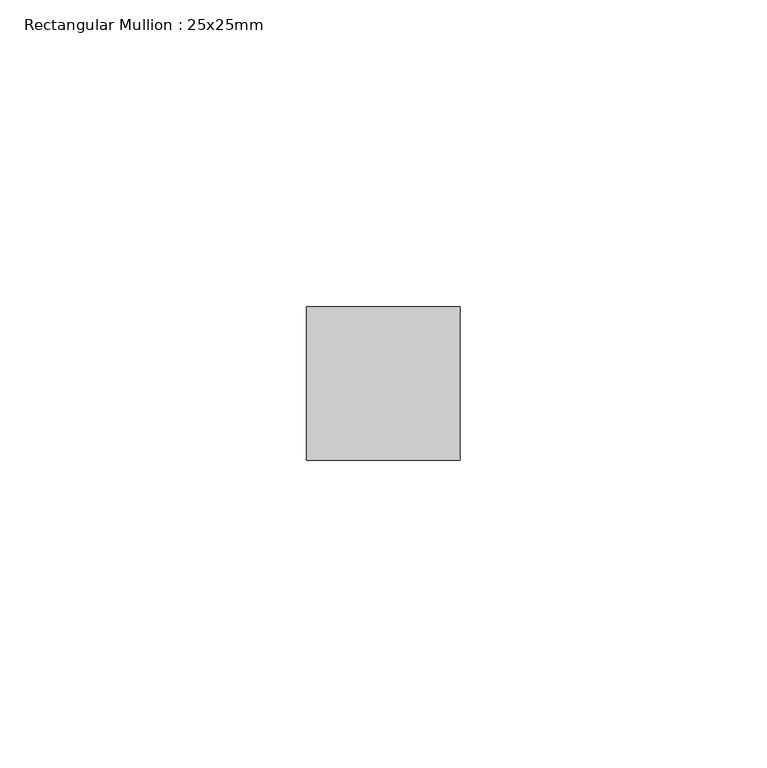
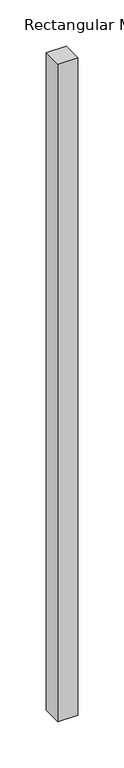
"""IFC4 building model written with IfcOpenShell, lengths in millimetres: member geometry, Rectangular Mullion : 25x25mm."""

import ifcopenshell
import ifcopenshell.guid

model = None  # the IFC model being written
_history = None  # IfcOwnerHistory: only IFC2X3 demands one
_inside = {}  # id of a spatial element -> (the spatial element, [elements in it])
_under = {}  # id of a project, library or spatial element -> (it, [spatial elements below it])
_declared = {}  # id of a project -> (the project, [libraries it declares])
_typed = {}  # id of a type object -> (the type object, [elements of that type])
_made_of = {}  # id of a material, layer set ... -> (it, [elements and type objects made of it])


def new_model(schema):
    """Start an empty IFC model of exactly this schema.

    Asked for "IFC4X3", IfcOpenShell would pick the latest addendum, in which some entities
    have other attributes; the version numbers below select the first issue.
    IFC2X3 requires an IfcOwnerHistory on every rooted entity: one is made here for all.
    """
    global model, _history
    if schema == "IFC4X3":
        model = ifcopenshell.file(schema_version=(4, 3, 0, 0))
    else:
        model = ifcopenshell.file(schema=schema)
    _inside.clear()
    _under.clear()
    _declared.clear()
    _typed.clear()
    _made_of.clear()
    _history = None
    if model.schema == "IFC2X3":
        org = make("IfcOrganization", Name="unknown")
        user = make(
            "IfcPersonAndOrganization",
            ThePerson=make("IfcPerson", FamilyName="unknown"),
            TheOrganization=org,
        )
        app = make(
            "IfcApplication",
            ApplicationDeveloper=org,
            Version="unknown",
            ApplicationFullName="unknown",
            ApplicationIdentifier="unknown",
        )
        _history = make(
            "IfcOwnerHistory",
            OwningUser=user,
            OwningApplication=app,
            ChangeAction="ADDED",
            CreationDate=0,
        )
    return model


def make(cls, **values):
    """One entity of the class cls with the attributes given. An attribute that is None is left unset."""
    return model.create_entity(
        cls, **{name: value for name, value in values.items() if value is not None}
    )


def rooted(cls, **values):
    """An entity with a GlobalId (a new one), such as an element, a storey or a relation."""
    return make(cls, GlobalId=ifcopenshell.guid.new(), OwnerHistory=_history, **values)


def si_unit(unit_type, name, prefix=None):
    """IfcSIUnit, for example si_unit("LENGTHUNIT", "METRE", prefix="MILLI")."""
    return make("IfcSIUnit", UnitType=unit_type, Prefix=prefix, Name=name)


def assignment(units):
    """IfcUnitAssignment: the units of a project."""
    return None if units is None else make("IfcUnitAssignment", Units=units)


def point(xyz):
    """IfcCartesianPoint."""
    return None if xyz is None else make("IfcCartesianPoint", Coordinates=xyz)


def direction(xyz):
    """IfcDirection."""
    return None if xyz is None else make("IfcDirection", DirectionRatios=xyz)


def frame(location, z_axis=None, x_axis=None):
    """IfcAxis2Placement3D, a coordinate frame: its origin and axes. An axis left out is left unset."""
    return make(
        "IfcAxis2Placement3D",
        Location=point(location),
        Axis=direction(z_axis),
        RefDirection=direction(x_axis),
    )


def origin():
    """The frame at (0, 0, 0) with its axes left unset."""
    return frame((0.0, 0.0, 0.0))


def place(relative_to, where):
    """IfcLocalPlacement: puts the frame where relative to a parent placement (None: the world)."""
    return make(
        "IfcLocalPlacement", PlacementRelTo=relative_to, RelativePlacement=where
    )


def context(
    kind, dimensions, precision=None, world=None, true_north=None, identifier=None
):
    """IfcGeometricRepresentationContext, for example the 3D "Model" context."""
    return make(
        "IfcGeometricRepresentationContext",
        ContextIdentifier=identifier,
        ContextType=kind,
        CoordinateSpaceDimension=dimensions,
        Precision=precision,
        WorldCoordinateSystem=world,
        TrueNorth=true_north,
    )


def project(units=None, contexts=None):
    """IfcProject with its units and contexts."""
    return rooted(
        "IfcProject",
        Name="project",
        RepresentationContexts=contexts,
        UnitsInContext=assignment(units),
    )


def spatial(cls, under=None, at=None, **own):
    """A site, building, storey or space (cls), placed at a placement, below another one or the project."""
    s = rooted(cls, ObjectPlacement=at, **own)
    if under is not None:
        _under.setdefault(under.id(), (under, []))[1].append(s)
    return s


def polyline(points):
    """IfcPolyline through the points."""
    return make("IfcPolyline", Points=[point(p) for p in points])


def outline(outer, holes=None, kind="AREA"):
    """IfcArbitraryClosedProfileDef: a profile drawn as a closed curve; with holes, ...WithVoids."""
    if holes is None:
        return make("IfcArbitraryClosedProfileDef", ProfileType=kind, OuterCurve=outer)
    return make(
        "IfcArbitraryProfileDefWithVoids",
        ProfileType=kind,
        OuterCurve=outer,
        InnerCurves=holes,
    )


def extrude(swept, where, along, depth):
    """IfcExtrudedAreaSolid: the profile swept, set in the frame where, extruded along a direction by depth."""
    return make(
        "IfcExtrudedAreaSolid",
        SweptArea=swept,
        Position=where,
        ExtrudedDirection=direction(along),
        Depth=depth,
    )


def shape(context_of_items, identifier, shape_type, items):
    """IfcShapeRepresentation: the items that make up one representation, for example the "Body"."""
    return make(
        "IfcShapeRepresentation",
        ContextOfItems=context_of_items,
        RepresentationIdentifier=identifier,
        RepresentationType=shape_type,
        Items=items,
    )


def source(mapping_origin, context_of_items, identifier, shape_type, items):
    """IfcRepresentationMap: a shape defined once, which mapped items show again and again."""
    return make(
        "IfcRepresentationMap",
        MappingOrigin=mapping_origin,
        MappedRepresentation=shape(context_of_items, identifier, shape_type, items),
    )


def transform(
    local_origin,
    x_axis=None,
    y_axis=None,
    z_axis=None,
    scale=None,
    scale2=None,
    scale3=None,
    uniform=True,
):
    """IfcCartesianTransformationOperator3D, or its non-uniform kind. x_axis, y_axis, z_axis: its Axis1, 2, 3."""
    if uniform:
        return make(
            "IfcCartesianTransformationOperator3D",
            Axis1=direction(x_axis),
            Axis2=direction(y_axis),
            LocalOrigin=point(local_origin),
            Scale=scale,
            Axis3=direction(z_axis),
        )
    return make(
        "IfcCartesianTransformationOperator3DnonUniform",
        Axis1=direction(x_axis),
        Axis2=direction(y_axis),
        LocalOrigin=point(local_origin),
        Scale=scale,
        Axis3=direction(z_axis),
        Scale2=scale2,
        Scale3=scale3,
    )


def mapped(mapping_source, mapping_target):
    """IfcMappedItem: shows the shape of a source again, moved by a transform."""
    return make(
        "IfcMappedItem", MappingSource=mapping_source, MappingTarget=mapping_target
    )


def made_of(thing, what):
    """Note that an element or type object is made of a material, layer set ...; save() writes the relation."""
    if what is not None:
        _made_of.setdefault(what.id(), (what, []))[1].append(thing)
    return thing


def element(
    cls,
    number,
    at=None,
    inside=None,
    cuts=None,
    type_object=None,
    material=None,
    context=None,
    identifier="Body",
    shape_type=None,
    held_by="IfcProductDefinitionShape",
    body=None,
    shapes=None,
    **own,
):
    """One element of the class cls, such as IfcWall. Its Tag is "e" and its number.

    at: its placement. inside: the storey or other place that contains it. cuts: it is an
    opening in that element (IfcRelVoidsElement). A single representation is given by context,
    identifier, shape_type and body (its items); several are given by shapes. held_by: the class
    of the entity that holds the representations. save() writes the other relations.
    """
    e = rooted(cls, Tag="e%d" % number, ObjectPlacement=at, **own)
    if body is not None:
        shapes = [shape(context, identifier, shape_type, body)]
    if shapes is not None:
        e.Representation = make(held_by, Representations=shapes)
    if inside is not None:
        _inside.setdefault(inside.id(), (inside, []))[1].append(e)
    if cuts is not None:
        rooted(
            "IfcRelVoidsElement", RelatingBuildingElement=cuts, RelatedOpeningElement=e
        )
    if type_object is not None:
        _typed.setdefault(type_object.id(), (type_object, []))[1].append(e)
    return made_of(e, material)


def aggregate(whole, parts):
    """IfcRelAggregates: a whole, such as a stair, and the parts it consists of."""
    return rooted("IfcRelAggregates", RelatingObject=whole, RelatedObjects=parts)


def save(model, path):
    """Write the relations noted so far, then the file.

    IfcRelAggregates (storeys below a building ...), IfcRelContainedInSpatialStructure (elements
    in a storey), IfcRelDefinesByType, IfcRelAssociatesMaterial and IfcRelDeclares: one each for
    every whole, place, type object, material and project.
    """
    for whole, parts in _under.values():
        aggregate(whole, parts)
    for where, things in _inside.values():
        rooted(
            "IfcRelContainedInSpatialStructure",
            RelatedElements=things,
            RelatingStructure=where,
        )
    for kind, things in _typed.values():
        rooted("IfcRelDefinesByType", RelatedObjects=things, RelatingType=kind)
    for what, things in _made_of.values():
        rooted("IfcRelAssociatesMaterial", RelatedObjects=things, RelatingMaterial=what)
    for by, libraries in _declared.values():
        rooted("IfcRelDeclares", RelatingContext=by, RelatedDefinitions=libraries)
    model.write(path)


def rectangular_mullion_25x25mm_5cbb2f7b(model_context):
    return source(origin(), model_context, "Body", "SweptSolid", [
        extrude(outline(polyline([(12.5, 24.5), (12.5, -0.5), (-12.5, -0.5), (-12.5, 24.5), (12.5, 24.5)])), frame((0.0, 0.0, -869.2603315), z_axis=(0.0, 0.0, 1.0), x_axis=(1.0, 0.0, 0.0)), (0.0, 0.0, 1.0), 869.2603315),
    ])


if __name__ == "__main__":
    model = new_model("IFC4")
    model_context = context("Model", 3, world=origin())
    ifc_project = project(units=[si_unit("LENGTHUNIT", "METRE", prefix="MILLI")], contexts=[model_context])
    site = spatial("IfcSite", under=ifc_project)
    building = spatial("IfcBuilding", under=site)
    placement = place(None, origin())
    rectangular_mullion_25x25mm_shape = rectangular_mullion_25x25mm_5cbb2f7b(model_context)
    element("IfcMember", 1, ObjectType="Rectangular Mullion : 25x25mm", at=placement, inside=building, context=model_context, shape_type="MappedRepresentation", body=[
        mapped(rectangular_mullion_25x25mm_shape, transform((0.0, 0.0, 0.0), x_axis=(1.0, 0.0, 0.0), y_axis=(0.0, 1.0, 0.0), z_axis=(0.0, 0.0, 1.0))),
    ])
    save(model, "model.ifc")
